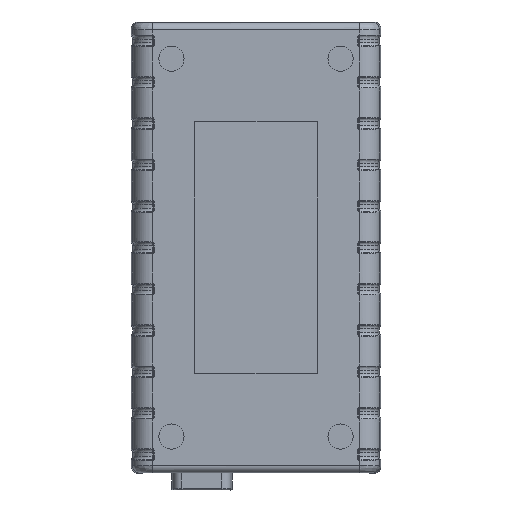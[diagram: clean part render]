
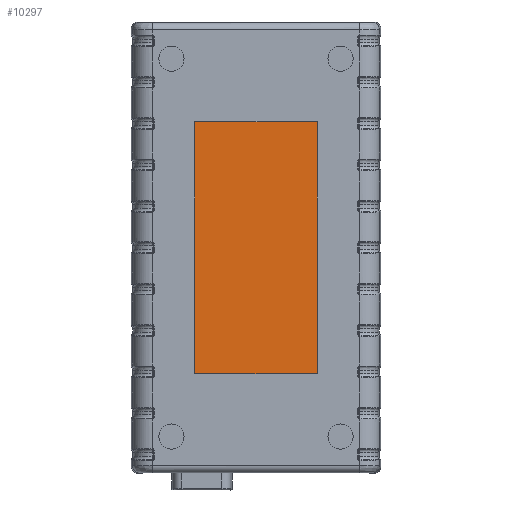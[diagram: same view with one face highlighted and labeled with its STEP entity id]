
A CAD part, front view. The second image highlights one B-rep face of the part: STEP entity #10297.
In plain terms, the highlighted planar face has unit normal (0, -1, 0).
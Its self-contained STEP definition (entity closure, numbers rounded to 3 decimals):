
#2242 = VERTEX_POINT ( 'NONE', #327945 ) ;
#9792 = CARTESIAN_POINT ( 'NONE',  ( -115.193, 0.4, -1.65 ) ) ;
#10297 = ADVANCED_FACE ( 'NONE', ( #278656 ), #310737, .F. ) ;
#16097 = EDGE_CURVE ( 'NONE', #2242, #295710, #330445, .T. ) ;
#17476 = AXIS2_PLACEMENT_3D ( 'NONE', #285735, #149209, #258694 ) ;
#17906 = ORIENTED_EDGE ( 'NONE', *, *, #341983, .T. ) ;
#19839 = ORIENTED_EDGE ( 'NONE', *, *, #72599, .T. ) ;
#52494 = CARTESIAN_POINT ( 'NONE',  ( -149.193, 0.4, 60.85 ) ) ;
#53758 = ORIENTED_EDGE ( 'NONE', *, *, #204260, .T. ) ;
#59520 = DIRECTION ( 'NONE',  ( 0., 0., -1. ) ) ;
#60328 = CARTESIAN_POINT ( 'NONE',  ( -149.193, 0.4, 25.849 ) ) ;
#64102 = EDGE_LOOP ( 'NONE', ( #17906, #19839, #158854, #53758 ) ) ;
#72599 = EDGE_CURVE ( 'NONE', #93956, #2242, #141611, .T. ) ;
#73643 = VECTOR ( 'NONE', #119210, 1000. ) ;
#93956 = VERTEX_POINT ( 'NONE', #227059 ) ;
#109975 = CARTESIAN_POINT ( 'NONE',  ( -137.859, 0.4, 95.851 ) ) ;
#113481 = CARTESIAN_POINT ( 'NONE',  ( -149.193, 0.4, 95.851 ) ) ;
#119210 = DIRECTION ( 'NONE',  ( 0., 0., 1. ) ) ;
#135120 = CARTESIAN_POINT ( 'NONE',  ( -115.193, 0.4, 95.851 ) ) ;
#141611 = B_SPLINE_CURVE_WITH_KNOTS ( 'NONE', 3,
 ( #135120, #244501, #109975, #113481 ),
 .UNSPECIFIED., .F., .F.,
 ( 4, 4 ),
 ( 0., 1. ),
 .UNSPECIFIED. ) ;
#149209 = DIRECTION ( 'NONE',  ( 0., 1., 0. ) ) ;
#154592 = CARTESIAN_POINT ( 'NONE',  ( -115.193, 0.4, 25.849 ) ) ;
#158854 = ORIENTED_EDGE ( 'NONE', *, *, #16097, .T. ) ;
#169731 = CARTESIAN_POINT ( 'NONE',  ( -137.859, 0.4, 25.849 ) ) ;
#174224 = B_SPLINE_CURVE_WITH_KNOTS ( 'NONE', 3,
 ( #60328, #169731, #336557, #252276 ),
 .UNSPECIFIED., .F., .F.,
 ( 4, 4 ),
 ( 0., 1. ),
 .UNSPECIFIED. ) ;
#175016 = CARTESIAN_POINT ( 'NONE',  ( -149.193, 0.4, 25.849 ) ) ;
#185139 = VERTEX_POINT ( 'NONE', #154592 ) ;
#203400 = LINE ( 'NONE', #9792, #73643 ) ;
#204260 = EDGE_CURVE ( 'NONE', #295710, #185139, #174224, .T. ) ;
#227059 = CARTESIAN_POINT ( 'NONE',  ( -115.193, 0.4, 95.851 ) ) ;
#228909 = VECTOR ( 'NONE', #59520, 1000. ) ;
#244501 = CARTESIAN_POINT ( 'NONE',  ( -126.526, 0.4, 95.851 ) ) ;
#252276 = CARTESIAN_POINT ( 'NONE',  ( -115.193, 0.4, 25.849 ) ) ;
#258694 = DIRECTION ( 'NONE',  ( -1., 0., 0. ) ) ;
#278656 = FACE_OUTER_BOUND ( 'NONE', #64102, .T. ) ;
#285735 = CARTESIAN_POINT ( 'NONE',  ( -132.193, 0.4, -1.65 ) ) ;
#295710 = VERTEX_POINT ( 'NONE', #175016 ) ;
#310737 = PLANE ( 'NONE',  #17476 ) ;
#327945 = CARTESIAN_POINT ( 'NONE',  ( -149.193, 0.4, 95.851 ) ) ;
#330445 = LINE ( 'NONE', #52494, #228909 ) ;
#336557 = CARTESIAN_POINT ( 'NONE',  ( -126.526, 0.4, 25.849 ) ) ;
#341983 = EDGE_CURVE ( 'NONE', #185139, #93956, #203400, .T. ) ;
